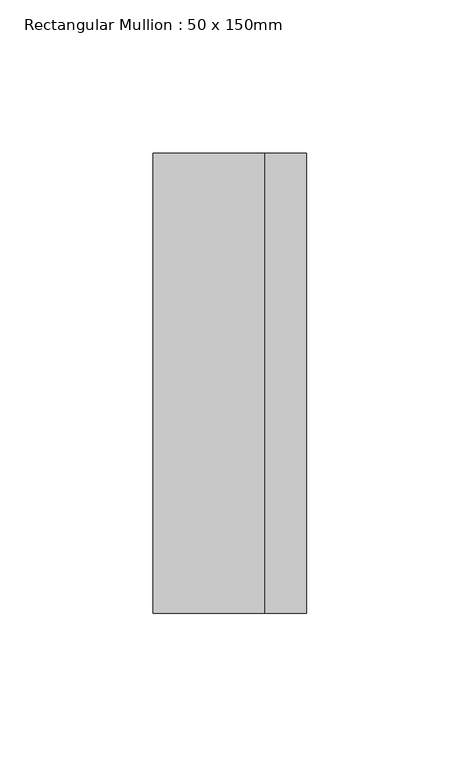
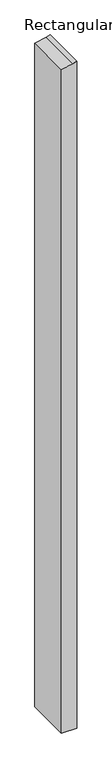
"""IFC4 building model written with IfcOpenShell, lengths in millimetres: member geometry, Rectangular Mullion : 50 x 150mm."""

from ifc_helpers import new_model, si_unit, frame, origin, place, context, project, spatial, polyline, outline, extrude, source, transform, mapped, element, save


def rectangular_mullion_50_x_150mm_a7d7b635(model_context):
    return source(origin(), model_context, "Body", "SweptSolid", [
        extrude(outline(polyline([(-45.4880193, 25.0), (-48.6748048, 11.4351816), (-57.2345292, -25.0), (-2344.5205733, -25.0), (-2344.5205733, 25.0), (-45.4880193, 25.0)])), frame((0.0, -75.0, 0.0), z_axis=(0.0, 1.0, 0.0), x_axis=(0.0, 0.0, 1.0)), (0.0, 0.0, 1.0), 150.0),
    ])


if __name__ == "__main__":
    model = new_model("IFC4")
    model_context = context("Model", 3, world=origin())
    ifc_project = project(units=[si_unit("LENGTHUNIT", "METRE", prefix="MILLI")], contexts=[model_context])
    site = spatial("IfcSite", under=ifc_project)
    building = spatial("IfcBuilding", under=site)
    placement = place(None, origin())
    rectangular_mullion_50_x_150mm_shape = rectangular_mullion_50_x_150mm_a7d7b635(model_context)
    element("IfcMember", 1, ObjectType="Rectangular Mullion : 50 x 150mm", at=placement, inside=building, context=model_context, shape_type="MappedRepresentation", body=[
        mapped(rectangular_mullion_50_x_150mm_shape, transform((0.0, 0.0, 0.0), x_axis=(1.0, 0.0, 0.0), y_axis=(0.0, 1.0, 0.0), z_axis=(0.0, 0.0, 1.0))),
    ])
    save(model, "model.ifc")
